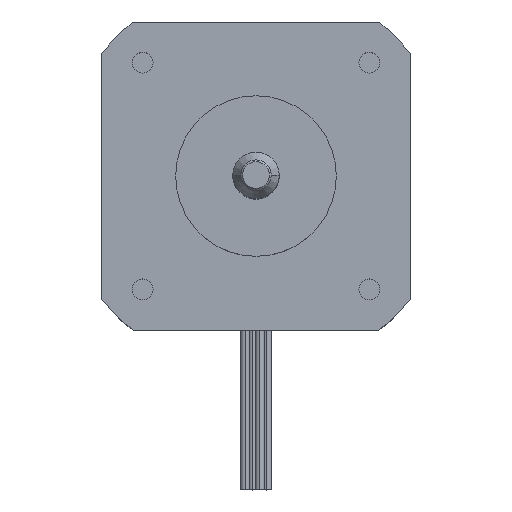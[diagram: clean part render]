
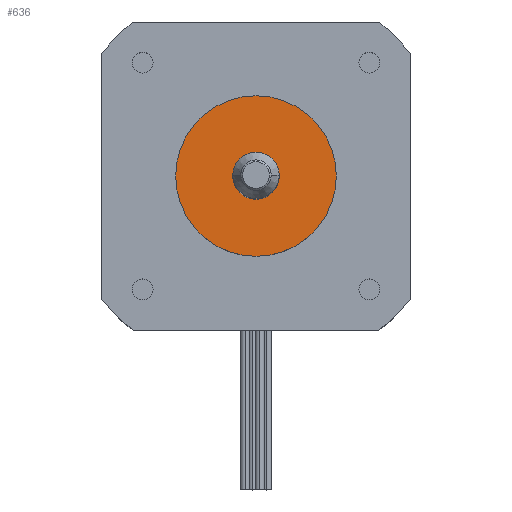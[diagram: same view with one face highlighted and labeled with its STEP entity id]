
A CAD part, top view. The second image highlights one B-rep face of the part: STEP entity #636.
In plain terms, the highlighted planar face has unit normal (0, 0, 1).
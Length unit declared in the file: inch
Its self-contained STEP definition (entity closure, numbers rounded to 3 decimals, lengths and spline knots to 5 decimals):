
#97 = AXIS2_PLACEMENT_3D ( 'NONE', #345, #1172, #971 ) ;
#124 = PLANE ( 'NONE',  #1741 ) ;
#192 = CARTESIAN_POINT ( 'NONE',  ( 0., 0., 0.09 ) ) ;
#211 = AXIS2_PLACEMENT_3D ( 'NONE', #832, #1677, #2511 ) ;
#276 = DIRECTION ( 'NONE',  ( 1., 0., 0. ) ) ;
#283 = DIRECTION ( 'NONE',  ( 1., 0., 0. ) ) ;
#289 = CARTESIAN_POINT ( 'NONE',  ( 0., 0., 0.09 ) ) ;
#320 = VERTEX_POINT ( 'NONE', #609 ) ;
#335 = CARTESIAN_POINT ( 'NONE',  ( 0., 0., 0.09 ) ) ;
#345 = CARTESIAN_POINT ( 'NONE',  ( 0., 0., 0.09 ) ) ;
#369 = EDGE_LOOP ( 'NONE', ( #2674, #1537 ) ) ;
#609 = CARTESIAN_POINT ( 'NONE',  ( -0.125, 0., 0.09 ) ) ;
#623 = CARTESIAN_POINT ( 'NONE',  ( -0.433, 0., 0.09 ) ) ;
#636 = ADVANCED_FACE ( 'NONE', ( #2001, #2631 ), #124, .T. ) ;
#784 = AXIS2_PLACEMENT_3D ( 'NONE', #335, #2166, #283 ) ;
#832 = CARTESIAN_POINT ( 'NONE',  ( 0., 0., 0.09 ) ) ;
#938 = CARTESIAN_POINT ( 'NONE',  ( 0.433, 0., 0.09 ) ) ;
#941 = EDGE_CURVE ( 'NONE', #320, #2258, #2358, .T. ) ;
#942 = VERTEX_POINT ( 'NONE', #623 ) ;
#971 = DIRECTION ( 'NONE',  ( 1., 0., 0. ) ) ;
#987 = VERTEX_POINT ( 'NONE', #938 ) ;
#1172 = DIRECTION ( 'NONE',  ( 0., 0., 1. ) ) ;
#1265 = CIRCLE ( 'NONE', #97, 0.433 ) ;
#1451 = DIRECTION ( 'NONE',  ( 1., 0., 0. ) ) ;
#1537 = ORIENTED_EDGE ( 'NONE', *, *, #941, .F. ) ;
#1575 = CIRCLE ( 'NONE', #2194, 0.125 ) ;
#1612 = ORIENTED_EDGE ( 'NONE', *, *, #1747, .T. ) ;
#1677 = DIRECTION ( 'NONE',  ( 0., 0., 1. ) ) ;
#1741 = AXIS2_PLACEMENT_3D ( 'NONE', #192, #2498, #1451 ) ;
#1747 = EDGE_CURVE ( 'NONE', #987, #942, #1787, .T. ) ;
#1787 = CIRCLE ( 'NONE', #784, 0.433 ) ;
#2001 = FACE_OUTER_BOUND ( 'NONE', #2553, .T. ) ;
#2159 = CARTESIAN_POINT ( 'NONE',  ( 0.125, 0., 0.09 ) ) ;
#2166 = DIRECTION ( 'NONE',  ( 0., 0., 1. ) ) ;
#2194 = AXIS2_PLACEMENT_3D ( 'NONE', #289, #2375, #276 ) ;
#2258 = VERTEX_POINT ( 'NONE', #2159 ) ;
#2268 = EDGE_CURVE ( 'NONE', #2258, #320, #1575, .T. ) ;
#2326 = EDGE_CURVE ( 'NONE', #942, #987, #1265, .T. ) ;
#2358 = CIRCLE ( 'NONE', #211, 0.125 ) ;
#2375 = DIRECTION ( 'NONE',  ( 0., 0., 1. ) ) ;
#2498 = DIRECTION ( 'NONE',  ( 0., 0., 1. ) ) ;
#2511 = DIRECTION ( 'NONE',  ( 1., 0., 0. ) ) ;
#2533 = ORIENTED_EDGE ( 'NONE', *, *, #2326, .T. ) ;
#2553 = EDGE_LOOP ( 'NONE', ( #2533, #1612 ) ) ;
#2631 = FACE_BOUND ( 'NONE', #369, .T. ) ;
#2674 = ORIENTED_EDGE ( 'NONE', *, *, #2268, .F. ) ;
